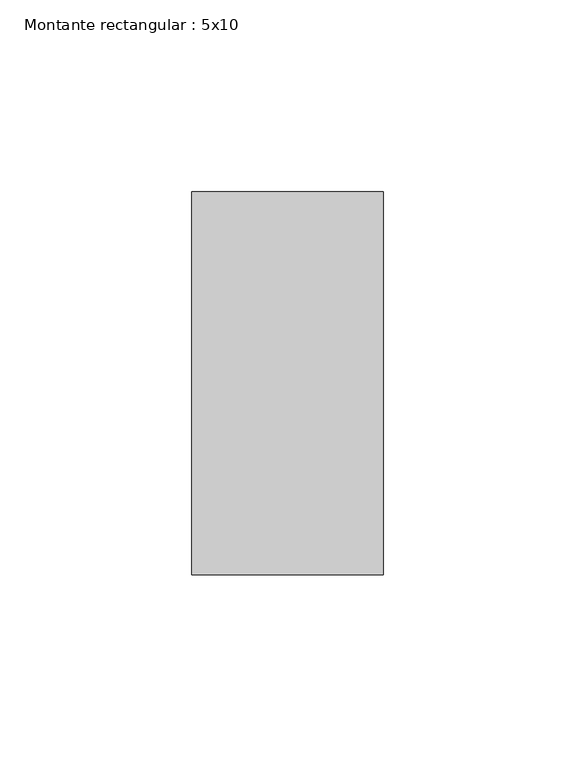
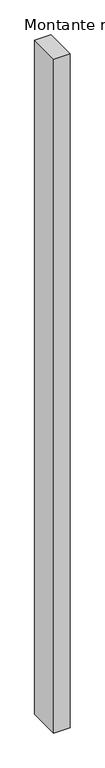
"""IFC4 building model written with IfcOpenShell, lengths in millimetres: member geometry, Montante rectangular : 5x10."""

from ifc_helpers import new_model, si_unit, frame, origin, place, context, project, spatial, polyline, outline, extrude, source, transform, mapped, element, save


def montante_rectangular_5x10_80e42d04(model_context):
    return source(origin(), model_context, "Body", "SweptSolid", [
        extrude(outline(polyline([(25.0, 50.0), (25.0, -50.0), (-25.0, -50.0), (-25.0, 50.0), (25.0, 50.0)])), frame((0.0, 0.0, -2170.9199157), z_axis=(0.0, 0.0, 1.0), x_axis=(1.0, 0.0, 0.0)), (0.0, 0.0, 1.0), 2170.9199157),
    ])


if __name__ == "__main__":
    model = new_model("IFC4")
    model_context = context("Model", 3, world=origin())
    ifc_project = project(units=[si_unit("LENGTHUNIT", "METRE", prefix="MILLI")], contexts=[model_context])
    site = spatial("IfcSite", under=ifc_project)
    building = spatial("IfcBuilding", under=site)
    placement = place(None, origin())
    montante_rectangular_5x10_shape = montante_rectangular_5x10_80e42d04(model_context)
    element("IfcMember", 1, ObjectType="Montante rectangular : 5x10", at=placement, inside=building, context=model_context, shape_type="MappedRepresentation", body=[
        mapped(montante_rectangular_5x10_shape, transform((0.0, 0.0, 0.0), x_axis=(1.0, 0.0, 0.0), y_axis=(0.0, 1.0, 0.0), z_axis=(0.0, 0.0, 1.0))),
    ])
    save(model, "model.ifc")
